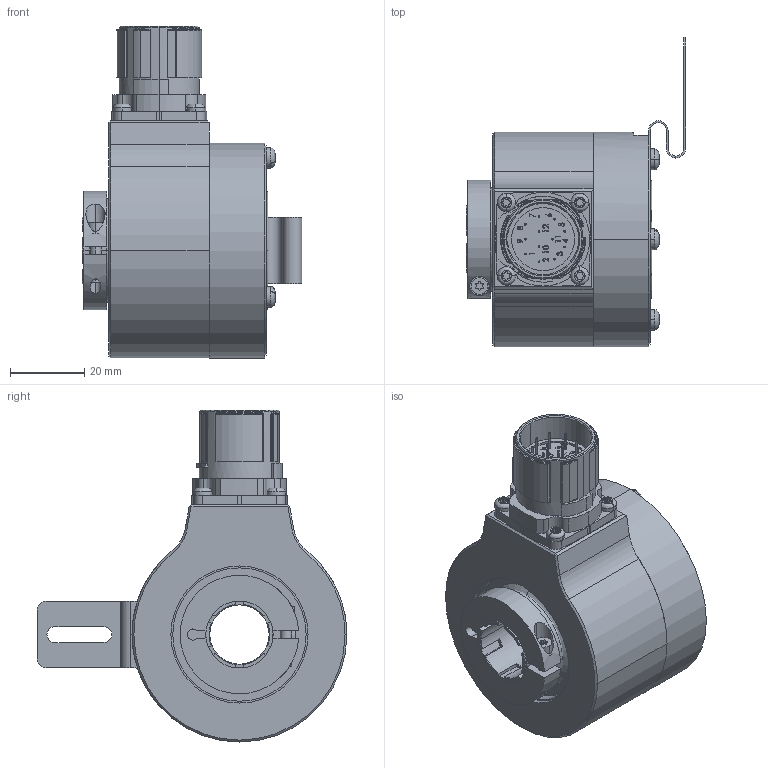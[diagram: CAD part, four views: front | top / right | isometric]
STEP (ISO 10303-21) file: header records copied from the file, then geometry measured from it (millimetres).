
FILE_DESCRIPTION (( 'STEP AP203' ), '1' );
FILE_NAME ('K58I.OXX.XXXXX.XC15516.XXRC4.step', '2025-12-03T07:00:51', ( '' ), ( '' ), 'SwSTEP 2.0', 'SolidWorks 2021', '' );
FILE_SCHEMA (( 'CONFIG_CONTROL_DESIGN' ));
Length unit declared in the file: millimetre
Products named in the file (1): K58I.OXX.XXXXX.XC15516.XXRC4
Bounding box: 59.2 x 83.61 x 89.6 mm (x, y, z)
Volume: 122481.5 mm3; surface area: 42666.8 mm2
Topology: 7 solids, 7 shells, 791 faces, 2051 edges, 1300 vertices
Faces by surface type: cylinder 338, plane 242, bspline 102, cone 63, sphere 34, torus 12
Entity records: 30908 total; most frequent: CARTESIAN_POINT 11890, ORIENTED_EDGE 4018, DIRECTION 3866, EDGE_CURVE 2009, AXIS2_PLACEMENT_3D 1461, VERTEX_POINT 1297, LINE 944, VECTOR 944
